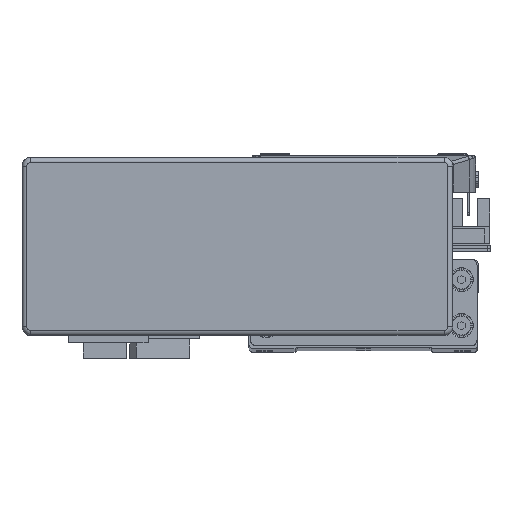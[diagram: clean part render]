
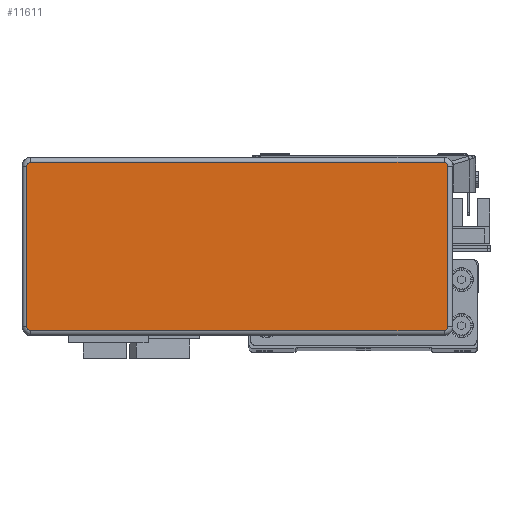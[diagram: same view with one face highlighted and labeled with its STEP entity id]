
A CAD part, top view. The second image highlights one B-rep face of the part: STEP entity #11611.
In plain terms, the highlighted planar face has unit normal (0, 0, 1) as drawn and (0, 0, -1) by its records, which use the part's own axes.
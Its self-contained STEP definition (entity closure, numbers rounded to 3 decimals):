
#9068 = DIRECTION ( 'NONE',  ( -1., 0., 0. ) ) ;
#9070 = DIRECTION ( 'NONE',  ( 0., 0., -1. ) ) ;
#9074 = DIRECTION ( 'NONE',  ( 1., 0., 0. ) ) ;
#9076 = CARTESIAN_POINT ( 'NONE',  ( -71.995, 27.995, -32.2 ) ) ;
#9079 = CARTESIAN_POINT ( 'NONE',  ( -73.295, -27.995, -32.2 ) ) ;
#9080 = DIRECTION ( 'NONE',  ( 0., 0., -1. ) ) ;
#9081 = DIRECTION ( 'NONE',  ( 0., 1., 0. ) ) ;
#9082 = DIRECTION ( 'NONE',  ( 1., 0., 0. ) ) ;
#9100 = DIRECTION ( 'NONE',  ( 1., 0., 0. ) ) ;
#9103 = CARTESIAN_POINT ( 'NONE',  ( 71.995, -29.295, -32.2 ) ) ;
#9105 = CARTESIAN_POINT ( 'NONE',  ( 71.995, 27.995, -32.2 ) ) ;
#9106 = CARTESIAN_POINT ( 'NONE',  ( 71.995, 29.295, -32.2 ) ) ;
#9155 = CARTESIAN_POINT ( 'NONE',  ( 73.295, -27.995, -32.2 ) ) ;
#9159 = DIRECTION ( 'NONE',  ( 0., -1., 0. ) ) ;
#9422 = DIRECTION ( 'NONE',  ( 0., 0., -1. ) ) ;
#9455 = DIRECTION ( 'NONE',  ( 1., 0., 0. ) ) ;
#9486 = CARTESIAN_POINT ( 'NONE',  ( -71.995, -27.995, -32.2 ) ) ;
#9548 = CARTESIAN_POINT ( 'NONE',  ( 71.995, -27.995, -32.2 ) ) ;
#9578 = DIRECTION ( 'NONE',  ( 0., 0., -1. ) ) ;
#9601 = DIRECTION ( 'NONE',  ( 1., 0., 0. ) ) ;
#10804 = ORIENTED_EDGE ( 'NONE', *, *, #39076, .T. ) ;
#10819 = ORIENTED_EDGE ( 'NONE', *, *, #38963, .T. ) ;
#10827 = ORIENTED_EDGE ( 'NONE', *, *, #38956, .T. ) ;
#10835 = ORIENTED_EDGE ( 'NONE', *, *, #38961, .T. ) ;
#10838 = ORIENTED_EDGE ( 'NONE', *, *, #39017, .T. ) ;
#10846 = ORIENTED_EDGE ( 'NONE', *, *, #38967, .T. ) ;
#10860 = ORIENTED_EDGE ( 'NONE', *, *, #38970, .T. ) ;
#10863 = ORIENTED_EDGE ( 'NONE', *, *, #39099, .T. ) ;
#11611 = ADVANCED_FACE ( 'NONE', ( #23405 ), #17508, .F. ) ;
#12875 = CIRCLE ( 'NONE', #24815, 1.3 ) ;
#12912 = LINE ( 'NONE', #9103, #12913 ) ;
#12913 = VECTOR ( 'NONE', #9068, 1000. ) ;
#12939 = VECTOR ( 'NONE', #9100, 1000. ) ;
#12960 = LINE ( 'NONE', #9079, #12977 ) ;
#12977 = VECTOR ( 'NONE', #9081, 1000. ) ;
#12984 = LINE ( 'NONE', #9106, #12939 ) ;
#12990 = CIRCLE ( 'NONE', #24787, 1.3 ) ;
#13022 = VECTOR ( 'NONE', #9159, 1000. ) ;
#13054 = LINE ( 'NONE', #9155, #13022 ) ;
#13098 = CIRCLE ( 'NONE', #24797, 1.3 ) ;
#13112 = CIRCLE ( 'NONE', #24804, 1.3 ) ;
#17496 = DIRECTION ( 'NONE',  ( 0., 0., 1. ) ) ;
#17508 = PLANE ( 'NONE',  #23796 ) ;
#17533 = CARTESIAN_POINT ( 'NONE',  ( 71.995, -27.995, -32.2 ) ) ;
#17576 = DIRECTION ( 'NONE',  ( 1., 0., 0. ) ) ;
#23405 = FACE_OUTER_BOUND ( 'NONE', #27439, .T. ) ;
#23796 = AXIS2_PLACEMENT_3D ( 'NONE', #17533, #17496, #17576 ) ;
#24787 = AXIS2_PLACEMENT_3D ( 'NONE', #9076, #9070, #9074 ) ;
#24797 = AXIS2_PLACEMENT_3D ( 'NONE', #9486, #9422, #9455 ) ;
#24804 = AXIS2_PLACEMENT_3D ( 'NONE', #9548, #9578, #9601 ) ;
#24815 = AXIS2_PLACEMENT_3D ( 'NONE', #9105, #9080, #9082 ) ;
#27439 = EDGE_LOOP ( 'NONE', ( #10838, #10863, #10835, #10804, #10819, #10846, #10860, #10827 ) ) ;
#33681 = CARTESIAN_POINT ( 'NONE',  ( 73.295, 27.995, -32.2 ) ) ;
#33697 = CARTESIAN_POINT ( 'NONE',  ( -73.295, -27.995, -32.2 ) ) ;
#33707 = CARTESIAN_POINT ( 'NONE',  ( -71.995, -29.295, -32.2 ) ) ;
#33713 = CARTESIAN_POINT ( 'NONE',  ( -73.295, 27.995, -32.2 ) ) ;
#33718 = CARTESIAN_POINT ( 'NONE',  ( 71.995, -29.295, -32.2 ) ) ;
#33725 = CARTESIAN_POINT ( 'NONE',  ( 73.295, -27.995, -32.2 ) ) ;
#33735 = CARTESIAN_POINT ( 'NONE',  ( -71.995, 29.295, -32.2 ) ) ;
#33738 = CARTESIAN_POINT ( 'NONE',  ( 71.995, 29.295, -32.2 ) ) ;
#38956 = EDGE_CURVE ( 'NONE', #42748, #42725, #12875, .T. ) ;
#38961 = EDGE_CURVE ( 'NONE', #42656, #42702, #12912, .T. ) ;
#38963 = EDGE_CURVE ( 'NONE', #42645, #42641, #12960, .T. ) ;
#38967 = EDGE_CURVE ( 'NONE', #42641, #42788, #12990, .T. ) ;
#38970 = EDGE_CURVE ( 'NONE', #42788, #42748, #12984, .T. ) ;
#39017 = EDGE_CURVE ( 'NONE', #42725, #42659, #13054, .T. ) ;
#39076 = EDGE_CURVE ( 'NONE', #42702, #42645, #13098, .T. ) ;
#39099 = EDGE_CURVE ( 'NONE', #42659, #42656, #13112, .T. ) ;
#42641 = VERTEX_POINT ( 'NONE', #33713 ) ;
#42645 = VERTEX_POINT ( 'NONE', #33697 ) ;
#42656 = VERTEX_POINT ( 'NONE', #33718 ) ;
#42659 = VERTEX_POINT ( 'NONE', #33725 ) ;
#42702 = VERTEX_POINT ( 'NONE', #33707 ) ;
#42725 = VERTEX_POINT ( 'NONE', #33681 ) ;
#42748 = VERTEX_POINT ( 'NONE', #33738 ) ;
#42788 = VERTEX_POINT ( 'NONE', #33735 ) ;
